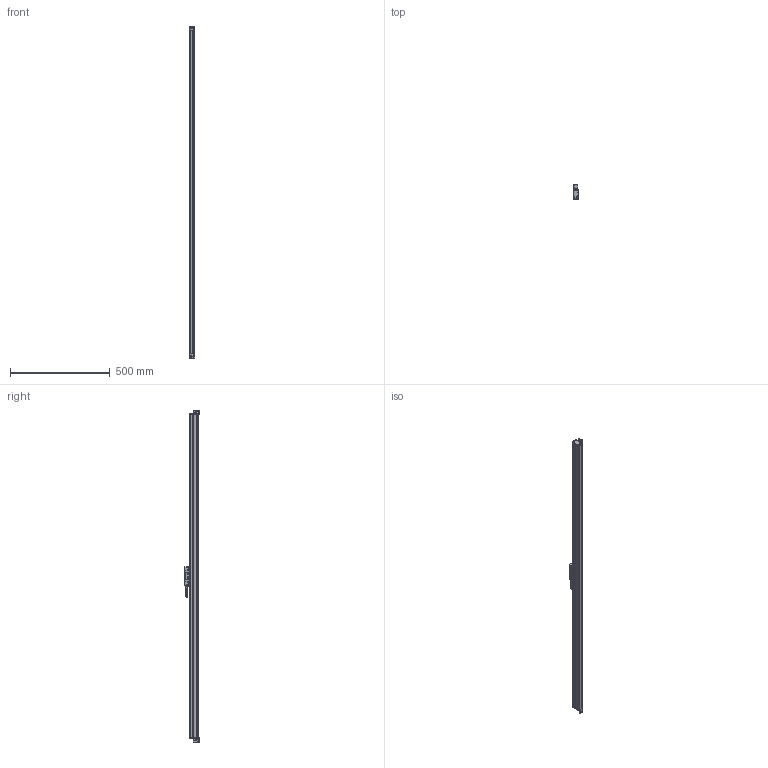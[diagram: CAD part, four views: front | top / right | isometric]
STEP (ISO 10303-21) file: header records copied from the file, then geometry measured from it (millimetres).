
FILE_DESCRIPTION (( 'STEP AP214' ), '1' );
FILE_NAME ('MLC310x1500.STEP', '2021-05-08T11:53:53', ( '' ), ( '' ), 'SwSTEP 2.0', 'SolidWorks 2014', '' );
FILE_SCHEMA (( 'AUTOMOTIVE_DESIGN' ));
Length unit declared in the file: millimetre
Products named in the file (1): MLC310x1500
Bounding box: 27 x 75.15 x 1664 mm (x, y, z)
Surface area: 283568.9 mm2 (no closed solid volume)
Topology: 0 solids, 20 shells, 345 faces, 1235 edges, 897 vertices
Faces by surface type: plane 148, cylinder 122, cone 55, bspline 20
Entity records: 26505 total; most frequent: CARTESIAN_POINT 12458, DIRECTION 2104, ORIENTED_EDGE 1856, EDGE_CURVE 1233, VERTEX_POINT 897, AXIS2_PLACEMENT_3D 726, LINE 652, VECTOR 652
